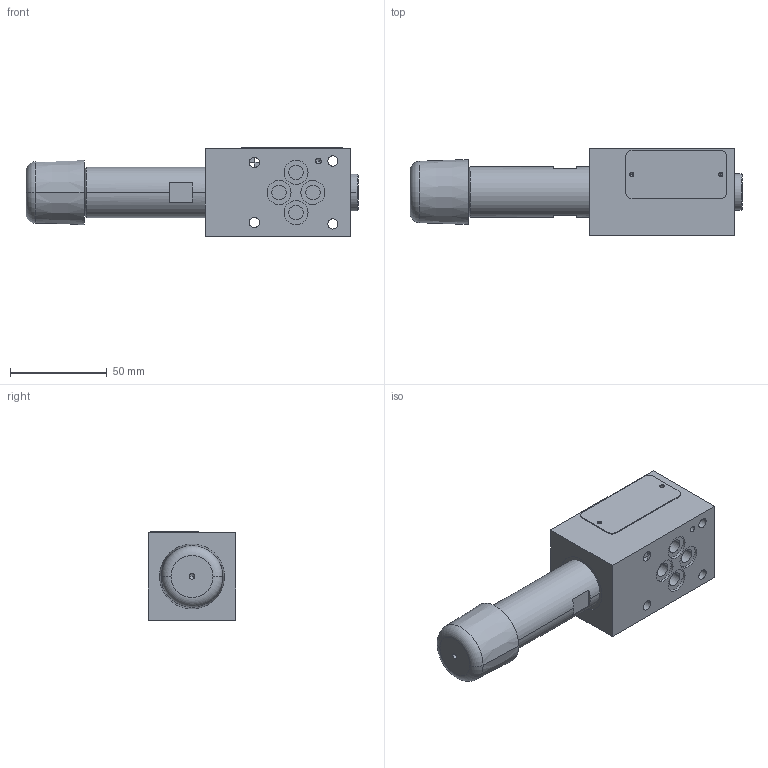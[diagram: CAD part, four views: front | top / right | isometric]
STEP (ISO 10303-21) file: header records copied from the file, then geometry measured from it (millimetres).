
FILE_DESCRIPTION((''),'2;1');
FILE_NAME('VRN2_06_MA_160010_ASM','2018-10-16T',('l.soukupova'),(''),'PRO/ENGINEER BY PARAMETRIC TECHNOLOGY CORPORATION, 2015440','PRO/ENGINEER BY PARAMETRIC TECHNOLOGY CORPORATION, 2015440','');
FILE_SCHEMA(('AUTOMOTIVE_DESIGN { 1 0 10303 214 1 1 1 1 }'));
Length unit declared in the file: millimetre
Products named in the file (5): IMP_VRN2_06_MA; RA_LABEL_25X52; VSTI_1_4_ED_154763; VRN2_06_S_S_AF0; VRN2_06_MA_160010_ASM
Assembly tree (4 placements, depth 2):
  VRN2_06_MA_160010_ASM
    IMP_VRN2_06_MA
    RA_LABEL_25X52
    VSTI_1_4_ED_154763
    VRN2_06_S_S_AF0
Bounding box: 171.5 x 45 x 45.5 mm (x, y, z)
Volume: 182039.6 mm3; surface area: 50015.4 mm2
Topology: 5 solids, 11 shells, 334 faces, 1108 edges, 860 vertices
Faces by surface type: cylinder 148, plane 83, cone 73, torus 30
Entity records: 19126 total; most frequent: CARTESIAN_POINT 4751, DIRECTION 2115, ORIENTED_EDGE 1494, PRESENTATION_STYLE_ASSIGNMENT 1248, STYLED_ITEM 1148, CURVE_STYLE 1138, EDGE_CURVE 759, AXIS2_PLACEMENT_3D 750
